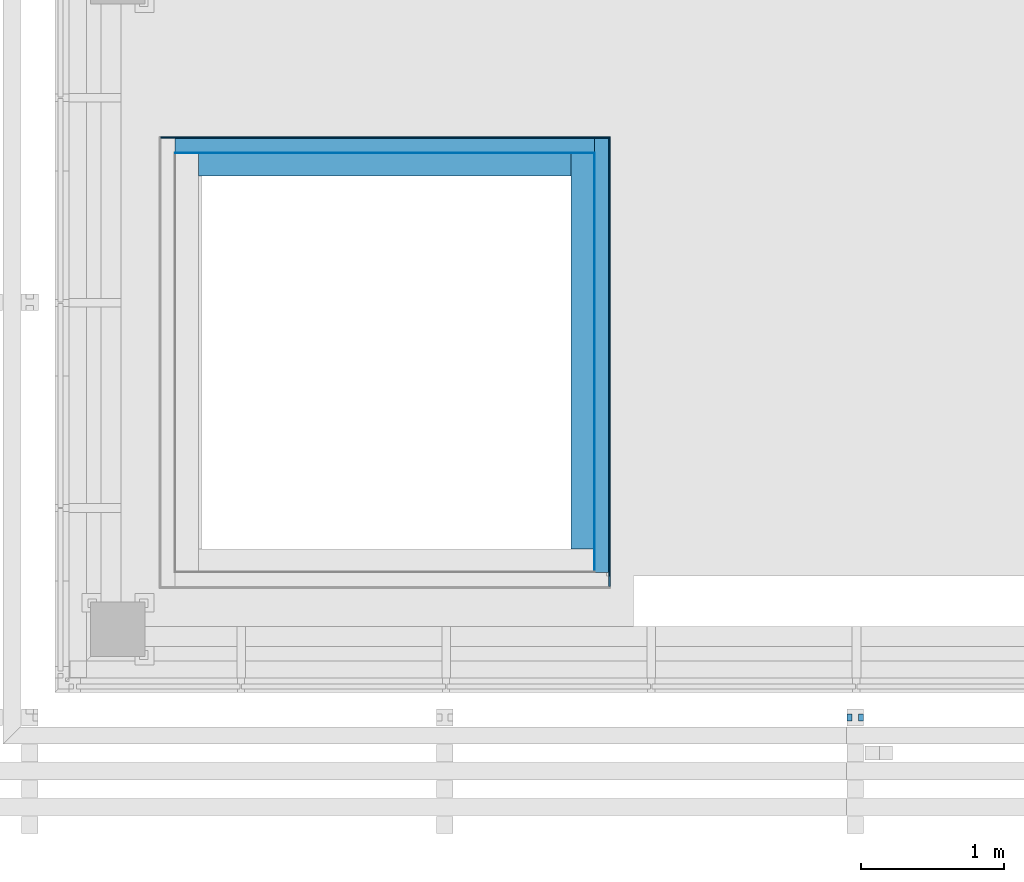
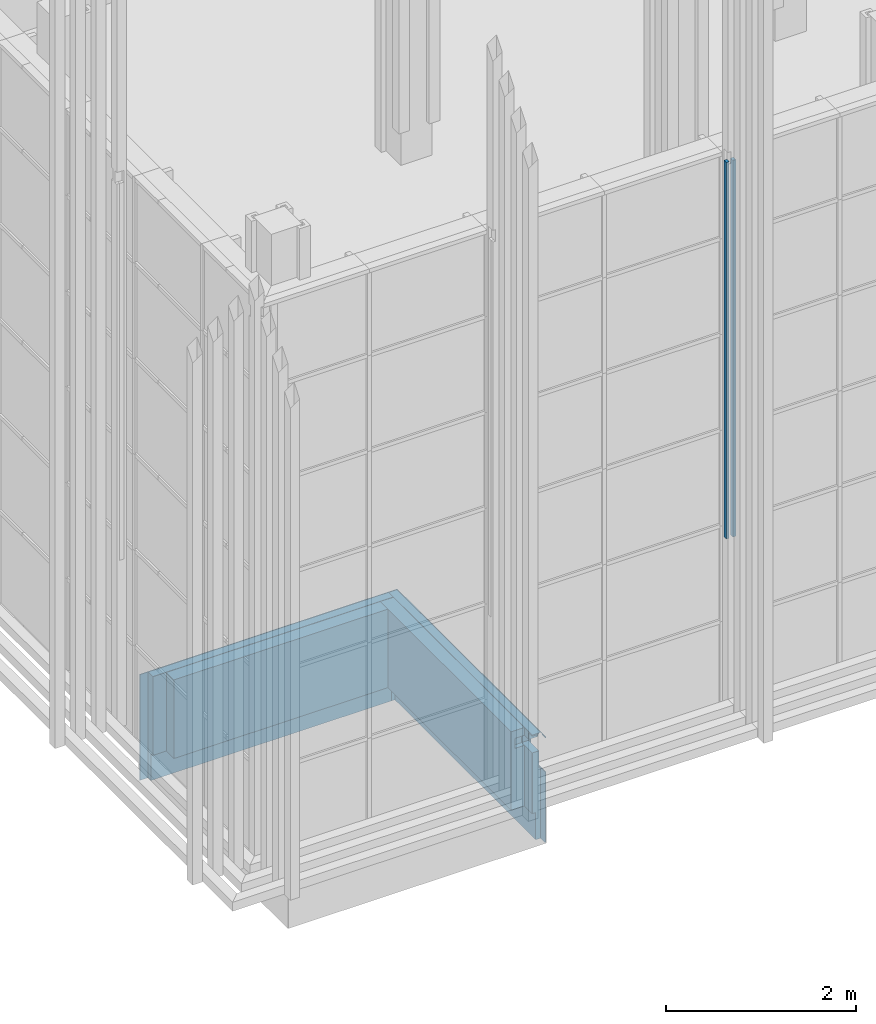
# One storey, part 129 of 260: 8 building element parts, 2 discrete accessories, 2 elements without a shape of their own.
"""IFC2X3 building model written with IfcOpenShell, lengths in millimetres."""

import ifcopenshell
import ifcopenshell.guid

model = None  # the IFC model being written
_history = None  # IfcOwnerHistory: only IFC2X3 demands one
_inside = {}  # id of a spatial element -> (the spatial element, [elements in it])
_under = {}  # id of a project, library or spatial element -> (it, [spatial elements below it])
_declared = {}  # id of a project -> (the project, [libraries it declares])
_typed = {}  # id of a type object -> (the type object, [elements of that type])
_made_of = {}  # id of a material, layer set ... -> (it, [elements and type objects made of it])


def new_model(schema):
    """Start an empty IFC model of exactly this schema.

    Asked for "IFC4X3", IfcOpenShell would pick the latest addendum, in which some entities
    have other attributes; the version numbers below select the first issue.
    IFC2X3 requires an IfcOwnerHistory on every rooted entity: one is made here for all.
    """
    global model, _history
    if schema == "IFC4X3":
        model = ifcopenshell.file(schema_version=(4, 3, 0, 0))
    else:
        model = ifcopenshell.file(schema=schema)
    _inside.clear()
    _under.clear()
    _declared.clear()
    _typed.clear()
    _made_of.clear()
    _history = None
    if model.schema == "IFC2X3":
        org = make("IfcOrganization", Name="unknown")
        user = make(
            "IfcPersonAndOrganization",
            ThePerson=make("IfcPerson", FamilyName="unknown"),
            TheOrganization=org,
        )
        app = make(
            "IfcApplication",
            ApplicationDeveloper=org,
            Version="unknown",
            ApplicationFullName="unknown",
            ApplicationIdentifier="unknown",
        )
        _history = make(
            "IfcOwnerHistory",
            OwningUser=user,
            OwningApplication=app,
            ChangeAction="ADDED",
            CreationDate=0,
        )
    return model


def make(cls, **values):
    """One entity of the class cls with the attributes given. An attribute that is None is left unset."""
    return model.create_entity(
        cls, **{name: value for name, value in values.items() if value is not None}
    )


def entity(cls, *values):
    """Any entity or typed value of the class cls, its attributes in the order of the schema. None: left unset."""
    e = model.create_entity(cls)
    for i, value in enumerate(values):
        if value is not None:
            e[i] = value
    return e


def rooted(cls, **values):
    """An entity with a GlobalId (a new one), such as an element, a storey or a relation."""
    return make(cls, GlobalId=ifcopenshell.guid.new(), OwnerHistory=_history, **values)


def si_unit(unit_type, name, prefix=None):
    """IfcSIUnit, for example si_unit("LENGTHUNIT", "METRE", prefix="MILLI")."""
    return make("IfcSIUnit", UnitType=unit_type, Prefix=prefix, Name=name)


def converted_unit(unit_type, name, factor, base, dimensions=None, offset=None):
    """IfcConversionBasedUnit, such as the inch: factor (a typed value) times the base unit."""
    return make(
        "IfcConversionBasedUnit"
        if offset is None
        else "IfcConversionBasedUnitWithOffset",
        ConversionOffset=offset,
        Dimensions=None
        if dimensions is None
        else entity("IfcDimensionalExponents", *dimensions),
        UnitType=unit_type,
        Name=name,
        ConversionFactor=make(
            "IfcMeasureWithUnit", ValueComponent=factor, UnitComponent=base
        ),
    )


def derived_unit(unit_type, elements):
    """IfcDerivedUnit: a product of units, each with its exponent."""
    return make(
        "IfcDerivedUnit",
        Elements=[
            make("IfcDerivedUnitElement", Unit=unit, Exponent=power)
            for unit, power in elements
        ],
        UnitType=unit_type,
    )


def money_unit(currency):
    """IfcMonetaryUnit."""
    return make("IfcMonetaryUnit", Currency=currency)


def assignment(units):
    """IfcUnitAssignment: the units of a project."""
    return None if units is None else make("IfcUnitAssignment", Units=units)


def point(xyz):
    """IfcCartesianPoint."""
    return None if xyz is None else make("IfcCartesianPoint", Coordinates=xyz)


def direction(xyz):
    """IfcDirection."""
    return None if xyz is None else make("IfcDirection", DirectionRatios=xyz)


def frame(location, z_axis=None, x_axis=None):
    """IfcAxis2Placement3D, a coordinate frame: its origin and axes. An axis left out is left unset."""
    return make(
        "IfcAxis2Placement3D",
        Location=point(location),
        Axis=direction(z_axis),
        RefDirection=direction(x_axis),
    )


def origin_with_axes():
    """The frame at (0, 0, 0) with the z axis (0, 0, 1) and the x axis (1, 0, 0) written out."""
    return frame((0.0, 0.0, 0.0), z_axis=(0.0, 0.0, 1.0), x_axis=(1.0, 0.0, 0.0))


def place(relative_to, where):
    """IfcLocalPlacement: puts the frame where relative to a parent placement (None: the world)."""
    return make(
        "IfcLocalPlacement", PlacementRelTo=relative_to, RelativePlacement=where
    )


def context(
    kind, dimensions, precision=None, world=None, true_north=None, identifier=None
):
    """IfcGeometricRepresentationContext, for example the 3D "Model" context."""
    return make(
        "IfcGeometricRepresentationContext",
        ContextIdentifier=identifier,
        ContextType=kind,
        CoordinateSpaceDimension=dimensions,
        Precision=precision,
        WorldCoordinateSystem=world,
        TrueNorth=true_north,
    )


def subcontext(parent, identifier, kind, view, scale=None):
    """IfcGeometricRepresentationSubContext, for example "Body" below "Model"."""
    return make(
        "IfcGeometricRepresentationSubContext",
        ContextIdentifier=identifier,
        ContextType=kind,
        ParentContext=parent,
        TargetScale=scale,
        TargetView=view,
    )


def project(units=None, contexts=None):
    """IfcProject with its units and contexts."""
    return rooted(
        "IfcProject",
        Name="project",
        RepresentationContexts=contexts,
        UnitsInContext=assignment(units),
    )


def spatial(cls, under=None, at=None, **own):
    """A site, building, storey or space (cls), placed at a placement, below another one or the project."""
    s = rooted(cls, ObjectPlacement=at, **own)
    if under is not None:
        _under.setdefault(under.id(), (under, []))[1].append(s)
    return s


def faces_of(points, faces, orient=None, outer=None):
    """IfcFace entities. A face is a list of loops; a loop is a list of indices into points, from 0.

    orient and outer hold one flag for each loop. By default every Orientation is true, the
    first loop of a face is its IfcFaceOuterBound and the others are IfcFaceBound.
    """
    made = []
    for i, loops in enumerate(faces):
        bounds = []
        for j, loop in enumerate(loops):
            is_outer = j == 0 if outer is None else outer[i][j]
            bounds.append(
                make(
                    "IfcFaceOuterBound" if is_outer else "IfcFaceBound",
                    Bound=make("IfcPolyLoop", Polygon=[points[k] for k in loop]),
                    Orientation=True if orient is None else orient[i][j],
                )
            )
        made.append(make("IfcFace", Bounds=bounds))
    return made


def faceted_brep(points, faces, orient=None, outer=None, voids=None):
    """IfcFacetedBrep: a solid bounded by flat faces; with voids (closed shells), ...WithVoids."""
    shared = [point(p) for p in points]
    hull = make("IfcClosedShell", CfsFaces=faces_of(shared, faces, orient, outer))
    if voids is None:
        return make("IfcFacetedBrep", Outer=hull)
    return make(
        "IfcFacetedBrepWithVoids",
        Outer=hull,
        Voids=[
            make(cls, CfsFaces=faces_of(shared, fs, o, b)) for cls, fs, o, b in voids
        ],
    )


def shape(context_of_items, identifier, shape_type, items):
    """IfcShapeRepresentation: the items that make up one representation, for example the "Body"."""
    return make(
        "IfcShapeRepresentation",
        ContextOfItems=context_of_items,
        RepresentationIdentifier=identifier,
        RepresentationType=shape_type,
        Items=items,
    )


def material(Name=None, Category=None):
    """IfcMaterial."""
    return make("IfcMaterial", Name=Name, Category=Category)


def made_of(thing, what):
    """Note that an element or type object is made of a material, layer set ...; save() writes the relation."""
    if what is not None:
        _made_of.setdefault(what.id(), (what, []))[1].append(thing)
    return thing


def type_object(cls, material=None, **own):
    """A type object (cls), such as IfcWallType, which elements share."""
    return made_of(rooted(cls, **own), material)


def element(
    cls,
    number,
    at=None,
    inside=None,
    cuts=None,
    type_object=None,
    material=None,
    context=None,
    identifier="Body",
    shape_type=None,
    held_by="IfcProductDefinitionShape",
    body=None,
    shapes=None,
    **own,
):
    """One element of the class cls, such as IfcWall. Its Tag is "e" and its number.

    at: its placement. inside: the storey or other place that contains it. cuts: it is an
    opening in that element (IfcRelVoidsElement). A single representation is given by context,
    identifier, shape_type and body (its items); several are given by shapes. held_by: the class
    of the entity that holds the representations. save() writes the other relations.
    """
    e = rooted(cls, Tag="e%d" % number, ObjectPlacement=at, **own)
    if body is not None:
        shapes = [shape(context, identifier, shape_type, body)]
    if shapes is not None:
        e.Representation = make(held_by, Representations=shapes)
    if inside is not None:
        _inside.setdefault(inside.id(), (inside, []))[1].append(e)
    if cuts is not None:
        rooted(
            "IfcRelVoidsElement", RelatingBuildingElement=cuts, RelatedOpeningElement=e
        )
    if type_object is not None:
        _typed.setdefault(type_object.id(), (type_object, []))[1].append(e)
    return made_of(e, material)


def aggregate(whole, parts):
    """IfcRelAggregates: a whole, such as a stair, and the parts it consists of."""
    return rooted("IfcRelAggregates", RelatingObject=whole, RelatedObjects=parts)


def save(model, path):
    """Write the relations noted so far, then the file.

    IfcRelAggregates (storeys below a building ...), IfcRelContainedInSpatialStructure (elements
    in a storey), IfcRelDefinesByType, IfcRelAssociatesMaterial and IfcRelDeclares: one each for
    every whole, place, type object, material and project.
    """
    for whole, parts in _under.values():
        aggregate(whole, parts)
    for where, things in _inside.values():
        rooted(
            "IfcRelContainedInSpatialStructure",
            RelatedElements=things,
            RelatingStructure=where,
        )
    for kind, things in _typed.values():
        rooted("IfcRelDefinesByType", RelatedObjects=things, RelatingType=kind)
    for what, things in _made_of.values():
        rooted("IfcRelAssociatesMaterial", RelatedObjects=things, RelatingMaterial=what)
    for by, libraries in _declared.values():
        rooted("IfcRelDeclares", RelatingContext=by, RelatedDefinitions=libraries)
    model.write(path)


model = new_model("IFC2X3")

# Units and contexts
model_context = context("Model", 3, precision=0.01, world=origin_with_axes(), true_north=direction((0.0, 1.0)))
body_context = subcontext(model_context, "Body", "Model", "MODEL_VIEW")
ifc_project = project(units=[si_unit("LENGTHUNIT", "METRE", prefix="MILLI"), si_unit("AREAUNIT", "SQUARE_METRE"), si_unit("VOLUMEUNIT", "CUBIC_METRE"), converted_unit("PLANEANGLEUNIT", "DEGREE", entity("IfcPlaneAngleMeasure", 0.0174532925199), si_unit("PLANEANGLEUNIT", "RADIAN"), dimensions=[0, 0, 0, 0, 0, 0, 0]), money_unit("EUR"), converted_unit("TIMEUNIT", "Year", entity("IfcTimeMeasure", 31556926.0), si_unit("TIMEUNIT", "SECOND"), dimensions=[0, 0, 1, 0, 0, 0, 0]), si_unit("MASSUNIT", "GRAM", prefix="KILO"), si_unit("THERMODYNAMICTEMPERATUREUNIT", "DEGREE_CELSIUS"), si_unit("LUMINOUSINTENSITYUNIT", "LUMEN"), si_unit("ENERGYUNIT", "JOULE", prefix="MEGA"), derived_unit("THERMALCONDUCTANCEUNIT", [(si_unit("POWERUNIT", "WATT"), 1), (si_unit("LENGTHUNIT", "METRE"), -1), (si_unit("THERMODYNAMICTEMPERATUREUNIT", "KELVIN"), -1)]), derived_unit("SPECIFICHEATCAPACITYUNIT", [(si_unit("ENERGYUNIT", "JOULE"), 1), (si_unit("MASSUNIT", "GRAM", prefix="KILO"), -1), (si_unit("THERMODYNAMICTEMPERATUREUNIT", "KELVIN"), -1)]), derived_unit("MASSDENSITYUNIT", [(si_unit("MASSUNIT", "GRAM", prefix="KILO"), 1), (si_unit("VOLUMEUNIT", "CUBIC_METRE"), -1)])], contexts=[model_context])

# Site, building, storey
site_placement = place(None, origin_with_axes())
site = spatial("IfcSite", under=ifc_project, at=site_placement, Name="Kolde pst 67a", CompositionType="ELEMENT")
building_placement = place(site_placement, origin_with_axes())
building = spatial("IfcBuilding", under=site, at=building_placement, Name="Riigigümnaasium", CompositionType="ELEMENT")
storey_placement = place(building_placement, origin_with_axes())
storey = spatial("IfcBuildingStorey", under=building, at=storey_placement, Name="1. korrus", CompositionType="ELEMENT", Elevation=0.0)

# Discrete accessories
ifc_material_1 = material(Name="_METALL - teras")
discrete_accessory_type = type_object("IfcDiscreteAccessoryType", Name="_METALL - teras 50 x 35")
discrete_accessory_1_placement = place(storey_placement, frame((29410.0026886, 23614.9996037, 2430.0), z_axis=(0.0, 0.0, 1.0), x_axis=(0.0, 1.0, 0.0)))
element("IfcDiscreteAccessory", 1, at=discrete_accessory_1_placement, inside=storey, type_object=discrete_accessory_type, material=ifc_material_1, Name="Varjestuskardina külgsiin RENSON või analoog", context=body_context, shape_type="Brep", body=[
    faceted_brep([(-25.0, -17.5, 4840.0), (-25.0, -17.5, 0.0), (25.0, -17.5, 0.0), (25.0, -17.5, 4840.0), (-25.0, 17.5, 4840.0), (-25.0, 17.5, 0.0), (25.0, 17.5, 0.0), (25.0, 17.5, 4840.0)], [[[0, 1, 2, 3]], [[4, 5, 1, 0]], [[2, 1, 5, 6]], [[3, 2, 6, 7]], [[4, 0, 3, 7]], [[7, 6, 5, 4]]]),
])
discrete_accessory_2_placement = place(storey_placement, frame((29330.0029398, 23614.9992426, 2430.0), z_axis=(0.0, 0.0, 1.0), x_axis=(0.0, -1.0, 0.0)))
element("IfcDiscreteAccessory", 2, at=discrete_accessory_2_placement, inside=storey, type_object=discrete_accessory_type, material=ifc_material_1, Name="Varjestuskardina külgsiin RENSON või analoog", context=body_context, shape_type="Brep", body=[
    faceted_brep([(25.0, 17.5, 4840.0), (25.0, 17.5, 0.0), (-25.0, 17.5, 0.0), (-25.0, 17.5, 4840.0), (25.0, -17.5, 4840.0), (25.0, -17.5, 0.0), (-25.0, -17.5, 0.0), (-25.0, -17.5, 4840.0)], [[[0, 1, 2, 3]], [[4, 5, 1, 0]], [[2, 1, 5, 6]], [[3, 2, 6, 7]], [[4, 0, 3, 7]], [[7, 6, 5, 4]]]),
])

# Wall, building element parts
wall_type = type_object("IfcWallType", Name="VS-RB-16/1_mullakast 273", PredefinedType="NOTDEFINED")
wall_1_placement = place(storey_placement, frame((27550.0567695, 24630.0, -1460.1), z_axis=(0.0, 0.0, 1.0), x_axis=(0.0, 1.0, 0.0)))
wall_1 = element("IfcWall", 3, at=wall_1_placement, inside=storey, type_object=wall_type, Name="taimekast")
ifc_material_2 = material(Name="_KANDETARIND - monoliitne raudbetoon vastavalt EK osale")
building_element_part_1_placement = place(wall_1_placement, origin_with_axes())
building_element_part_1 = element("IfcBuildingElementPart", 4, at=building_element_part_1_placement, material=ifc_material_2, Name="_KANDETARIND - monoliitne raudbetoon vastavalt EK osale", context=body_context, shape_type="Brep", body=[
    faceted_brep([(219.700456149, 0.0, 1129.99999192), (160.0, 0.0, 1130.00074455), (160.0, 0.0, 350.1), (2920.0, 0.0, 350.1), (2920.0, 0.0, 1360.1), (160.0, 0.0, 1360.1), (160.0, 0.0, 1260.00001148), (219.700461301, 0.0, 1260.00001148), (219.700456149, 115.224419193, 1129.99999192), (160.0, 115.224419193, 1130.00074455), (160.0, 115.224419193, 1260.00001148), (160.0, 160.0, 1360.1), (160.0, 160.0, 350.1), (2920.0, 160.0, 350.1), (2920.0, 160.0, 1360.1), (219.700461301, 115.224419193, 1260.00001148)], [[[0, 1, 2, 3, 4, 5, 6, 7]], [[1, 0, 8, 9]], [[10, 6, 5, 11, 12, 2, 1, 9]], [[12, 13, 3, 2]], [[4, 3, 13, 14]], [[5, 4, 14, 11]], [[7, 6, 10, 15]], [[0, 7, 15, 8]], [[10, 9, 8, 15]], [[14, 13, 12, 11]]]),
])
ifc_material_3 = material(Name="_HÜDROISOLATSIOON/RADOONITÕKE - eelpaigaldatav elastne hüdroisolatsioonimembraan, värske betooniga nakkuv, radoonitihe, FORSOC PROOFEX 3000 või samaväärne")
building_element_part_2_placement = place(wall_1_placement, origin_with_axes())
building_element_part_2 = element("IfcBuildingElementPart", 5, at=building_element_part_2_placement, material=ifc_material_3, Name="_HÜDROISOLATSIOON/RADOONITÕKE - eelpaigaldatav elastne hüdroisolatsioonimembraan, värske betooniga nakkuv, radoonitihe, FORSOC PROOFEX 3000 või samaväärne", context=body_context, shape_type="Brep", body=[
    faceted_brep([(219.700456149, -3.0, 1129.99999192), (0.0, -3.0, 1129.9999969), (0.0, -3.0, 350.1), (2923.0, -3.0, 350.1), (2923.0, -3.0, 1360.1), (0.0, -3.0, 1360.1), (0.0, -3.0, 1345.1), (69.7004604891, -3.0, 1345.1), (69.7004607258, -3.0, 1260.00001148), (219.700461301, -3.0, 1260.00001148), (219.700456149, 0.0, 1129.99999192), (0.0, 0.0, 1129.9999969), (0.0, 0.0, 350.1), (2923.0, 0.0, 350.1), (2923.0, 0.0, 1360.1), (0.0, 0.0, 1360.1), (0.0, 0.0, 1345.1), (69.7004604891, 0.0, 1345.1), (69.7004607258, 0.0, 1260.00001148), (219.700461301, 0.0, 1260.00001148)], [[[0, 1, 2, 3, 4, 5, 6, 7, 8, 9]], [[0, 10, 11, 1]], [[2, 1, 11, 12]], [[13, 3, 2, 12]], [[3, 13, 14, 4]], [[4, 14, 15, 5]], [[15, 16, 6, 5]], [[17, 7, 6, 16]], [[18, 8, 7, 17]], [[9, 8, 18, 19]], [[0, 9, 19, 10]], [[19, 18, 17, 16, 15, 14, 13, 12, 11, 10]]]),
])
ifc_material_4 = material(Name="_SOOJUSTUS - vahtpolüstüreenplaadid EPS 120 Perimeeter, survetugevus min. 120kPa, veeimavus <2%, soojuserijuhtivus λD<0,036 W/(mK)")
building_element_part_3_placement = place(wall_1_placement, origin_with_axes())
building_element_part_3 = element("IfcBuildingElementPart", 6, at=building_element_part_3_placement, material=ifc_material_4, Name="_SOOJUSTUS - vahtpolüstüreenplaadid EPS 120 Perimeeter, survetugevus min. 120kPa, veeimavus <2%, soojuserijuhtivus λD<0,036 W/(mK)", context=body_context, shape_type="Brep", body=[
    faceted_brep([(219.700456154, -103.0, 910.000015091), (69.7004517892, -103.0, 910.000020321), (-3.0, -103.0, 910.000026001), (-3.0, -103.0, 0.0), (3023.0, -103.0, 0.0), (3023.0, -103.0, 1360.1), (-3.0, -103.0, 1360.0000162), (69.7004604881, -103.0, 1360.00000237), (69.7004607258, -103.0, 1260.00001148), (219.700461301, -103.0, 1260.00001148), (219.700456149, -84.7755808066, 910.000015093), (69.7004517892, -84.7755808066, 910.000020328), (-3.0, -84.7755808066, 910.000022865), (-3.0, -84.7755808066, 1130.00001081), (-3.0, -3.0, 1129.99998062), (-3.0, -3.0, 350.1), (-3.0, -43.0, 350.1), (-3.0, -43.0, 0.0), (2963.0, -43.0, 0.0), (2963.0, -3.0, 0.0), (3023.0, -3.0, 0.0), (3023.0, -3.0, 1360.1), (-3.0, -3.0, 1360.1), (69.7004604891, -84.7755808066, 1360.00000236), (-3.0, -84.7755808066, 1360.00001211), (69.7004607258, -3.0, 1260.00001148), (69.7004604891, -84.7755808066, 1345.1), (69.7004604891, -3.0, 1345.1), (219.700461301, -3.0, 1260.00001148), (219.700456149, -3.0, 1129.99999192), (219.700456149, -84.7755808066, 1129.99999192), (69.7004574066, -84.7755808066, 1130.00188294), (-3.0, -3.0, 1345.1), (2963.0, -3.0, 350.1), (2963.0, -43.0, 350.1), (-3.0, -84.7755808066, 1345.1)], [[[0, 1, 2, 3, 4, 5, 6, 7, 8, 9]], [[1, 0, 10, 11]], [[1, 11, 12, 2]], [[12, 13, 14, 15, 16, 17, 3, 2]], [[18, 19, 20, 4, 3, 17]], [[21, 5, 4, 20]], [[22, 6, 5, 21]], [[23, 7, 6, 24]], [[25, 8, 7, 23, 26, 27]], [[9, 8, 25, 28]], [[0, 9, 28, 29, 30, 10]], [[11, 10, 30, 31, 13, 12]], [[31, 30, 29, 14, 13]], [[28, 25, 27, 32, 22, 21, 20, 19, 33, 15, 14, 29]], [[33, 34, 16, 15]], [[16, 34, 18, 17]], [[34, 33, 19, 18]], [[35, 24, 6, 22, 32]], [[23, 24, 35, 26]], [[26, 35, 32, 27]]]),
])
ifc_material_5 = material(Name="_ALUSKATE - drenaaži- ja kaitsematt geotekstiiliga soojustuse kaitseks, Interplast Iso-Drain 8 Geo või samaväärne")
building_element_part_4_placement = place(wall_1_placement, origin_with_axes())
building_element_part_4 = element("IfcBuildingElementPart", 7, at=building_element_part_4_placement, material=ifc_material_5, Name="_ALUSKATE - drenaaži- ja kaitsematt geotekstiiliga soojustuse kaitseks, Interplast Iso-Drain 8 Geo või samaväärne", context=body_context, shape_type="Brep", body=[
    faceted_brep([(219.700456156, -113.0, 910.00001509), (69.7004517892, -113.0, 910.000020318), (-103.0, -113.0, 910.000028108), (-103.0, -113.0, 0.0), (3033.0, -113.0, 0.0), (3033.0, -113.0, 1360.1), (-103.0, -113.0, 1360.1), (-103.0, -113.0, 1345.1), (-30.2995373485, -113.0, 1345.1), (-30.2995373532, -113.0, 1360.00001578), (69.7004604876, -113.0, 1360.00000237), (69.7004607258, -113.0, 1260.00001148), (219.700461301, -113.0, 1260.00001148), (219.700456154, -103.0, 910.000015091), (69.7004517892, -103.0, 910.000020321), (-103.0, -103.0, 910.000028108), (-103.0, -103.0, 0.0), (3033.0, -103.0, 0.0), (3033.0, -103.0, 1360.1), (-103.0, -103.0, 1360.1), (-103.0, -103.0, 1345.1), (-30.2995373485, -103.0, 1345.1), (-30.2995373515, -103.0, 1360.00001577), (69.7004604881, -103.0, 1360.00000237), (69.7004607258, -103.0, 1260.00001148), (219.700461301, -103.0, 1260.00001148)], [[[0, 1, 2, 3, 4, 5, 6, 7, 8, 9, 10, 11, 12]], [[1, 0, 13, 14]], [[1, 14, 15, 2]], [[2, 15, 16, 3]], [[16, 17, 4, 3]], [[5, 4, 17, 18]], [[6, 5, 18, 19]], [[19, 20, 7, 6]], [[21, 8, 7, 20]], [[9, 8, 21, 22]], [[10, 9, 22, 23]], [[24, 11, 10, 23]], [[12, 11, 24, 25]], [[0, 12, 25, 13]], [[25, 24, 23, 22, 21, 20, 19, 18, 17, 16, 15, 14, 13]]]),
])
aggregate(wall_1, [building_element_part_1, building_element_part_2, building_element_part_3, building_element_part_4])

wall_2_placement = place(storey_placement, frame((27550.0567695, 27550.0, -1460.1), z_axis=(0.0, 0.0, 1.0), x_axis=(-1.0, 0.0, 0.0)))
wall_2 = element("IfcWall", 8, at=wall_2_placement, inside=storey, type_object=wall_type, Name="taimekast")
building_element_part_5_placement = place(wall_2_placement, origin_with_axes())
building_element_part_5 = element("IfcBuildingElementPart", 9, at=building_element_part_5_placement, material=ifc_material_2, Name="_KANDETARIND - monoliitne raudbetoon vastavalt EK osale", context=body_context, shape_type="Brep", body=[
    faceted_brep([(160.0, 160.0, 350.1), (160.0, 0.0, 350.1), (160.0, 0.0, 1360.1), (160.0, 160.0, 1360.1), (2760.0, 0.0, 350.1), (2760.0, 160.0, 350.1), (2760.0, 0.0, 1360.1), (2760.0, 160.0, 1360.1)], [[[0, 1, 2, 3]], [[4, 1, 0, 5]], [[1, 4, 6, 2]], [[6, 7, 3, 2]], [[5, 0, 3, 7]], [[4, 5, 7, 6]]]),
])
building_element_part_6_placement = place(wall_2_placement, origin_with_axes())
building_element_part_6 = element("IfcBuildingElementPart", 10, at=building_element_part_6_placement, material=ifc_material_3, Name="_HÜDROISOLATSIOON/RADOONITÕKE - eelpaigaldatav elastne hüdroisolatsioonimembraan, värske betooniga nakkuv, radoonitihe, FORSOC PROOFEX 3000 või samaväärne", context=body_context, shape_type="Brep", body=[
    faceted_brep([(0.0, 0.0, 350.1), (0.0, -3.0, 350.1), (0.0, -3.0, 1360.1), (0.0, 0.0, 1360.1), (2920.0, -3.0, 350.1), (2920.0, 0.0, 350.1), (2920.0, -3.0, 1360.1), (2920.0, 0.0, 1360.1)], [[[0, 1, 2, 3]], [[4, 1, 0, 5]], [[1, 4, 6, 2]], [[6, 7, 3, 2]], [[5, 0, 3, 7]], [[4, 5, 7, 6]]]),
])
building_element_part_7_placement = place(wall_2_placement, origin_with_axes())
building_element_part_7 = element("IfcBuildingElementPart", 11, at=building_element_part_7_placement, material=ifc_material_4, Name="_SOOJUSTUS - vahtpolüstüreenplaadid EPS 120 Perimeeter, survetugevus min. 120kPa, veeimavus <2%, soojuserijuhtivus λD<0,036 W/(mK)", context=body_context, shape_type="Brep", body=[
    faceted_brep([(-3.0, -43.0, 350.1), (-3.0, -43.0, 0.0), (-3.0, -103.0, 0.0), (-3.0, -103.0, 1360.1), (-3.0, -3.0, 1360.1), (-3.0, -3.0, 350.1), (2923.0, -43.0, 350.1), (2923.0, -43.0, 0.0), (2923.0, -103.0, 0.0), (2923.0, -103.0, 1360.1), (2923.0, -3.0, 1360.1), (2923.0, -3.0, 350.1)], [[[0, 1, 2, 3, 4, 5]], [[1, 0, 6, 7]], [[1, 7, 8, 2]], [[8, 9, 3, 2]], [[9, 10, 4, 3]], [[11, 5, 4, 10]], [[0, 5, 11, 6]], [[6, 11, 10, 9, 8, 7]]]),
])
building_element_part_8_placement = place(wall_2_placement, origin_with_axes())
building_element_part_8 = element("IfcBuildingElementPart", 12, at=building_element_part_8_placement, material=ifc_material_5, Name="_ALUSKATE - drenaaži- ja kaitsematt geotekstiiliga soojustuse kaitseks, Interplast Iso-Drain 8 Geo või samaväärne", context=body_context, shape_type="Brep", body=[
    faceted_brep([(3023.0, -113.0, 0.0), (-103.0, -113.0, 0.0), (-103.0, -103.0, 0.0), (3023.0, -103.0, 0.0), (3023.0, -113.0, 1360.1), (-103.0, -113.0, 1360.1), (-103.0, -103.0, 1360.1), (3023.0, -103.0, 1360.1)], [[[0, 1, 2, 3]], [[4, 5, 1, 0]], [[2, 1, 5, 6]], [[3, 2, 6, 7]], [[3, 7, 4, 0]], [[7, 6, 5, 4]]]),
])
aggregate(wall_2, [building_element_part_5, building_element_part_6, building_element_part_7, building_element_part_8])

save(model, "model.ifc")
